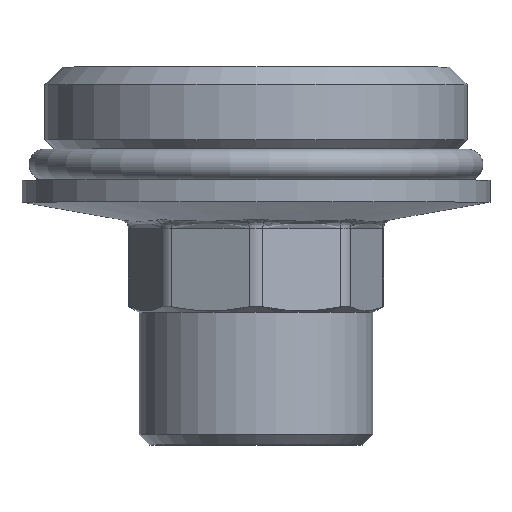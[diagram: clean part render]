
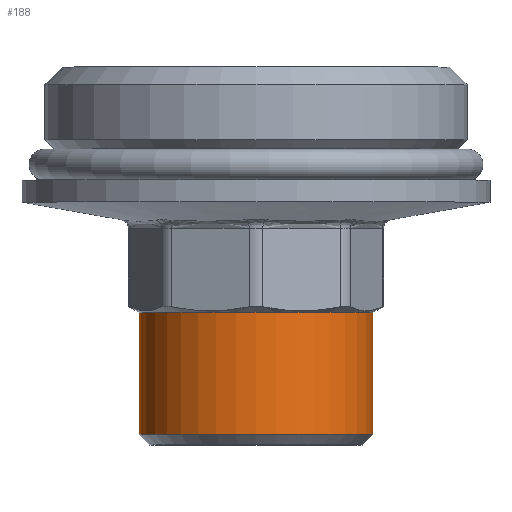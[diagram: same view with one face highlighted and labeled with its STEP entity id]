
A CAD part, top view. The second image highlights one B-rep face of the part: STEP entity #188.
In plain terms, the highlighted cylindrical face has radius 13.22 mm (diameter 26.441 mm), a full revolution.
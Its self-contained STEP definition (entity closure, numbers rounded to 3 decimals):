
#188=ADVANCED_FACE('',(#364,#366),#368,.T.);
#364=FACE_OUTER_BOUND('',#365,.T.);
#365=EDGE_LOOP('',(#1580));
#366=FACE_OUTER_BOUND('',#367,.T.);
#367=EDGE_LOOP('',(#1581));
#368=CYLINDRICAL_SURFACE('',#369,13.221);
#369=AXIS2_PLACEMENT_3D('',#370,#371,#372);
#370=CARTESIAN_POINT('',(0.,-12.5,0.));
#371=DIRECTION('',(0.,-1.,0.));
#372=DIRECTION('',(1.,0.,0.));
#1580=ORIENTED_EDGE('',*,*,#1778,.T.);
#1581=ORIENTED_EDGE('',*,*,#1775,.F.);
#1775=EDGE_CURVE('',#1887,#1887,#1888,.T.);
#1778=EDGE_CURVE('',#1893,#1893,#1894,.T.);
#1887=VERTEX_POINT('',#2089);
#1888=CIRCLE('',#2090,13.221);
#1893=VERTEX_POINT('',#2104);
#1894=CIRCLE('',#2105,13.221);
#2089=CARTESIAN_POINT('',(13.221,-26.3,0.));
#2090=AXIS2_PLACEMENT_3D('',#2091,#2092,#2093);
#2091=CARTESIAN_POINT('',(0.,-26.3,0.));
#2092=DIRECTION('',(0.,-1.,0.));
#2093=DIRECTION('',(1.,0.,0.));
#2104=CARTESIAN_POINT('',(13.221,-12.5,0.));
#2105=AXIS2_PLACEMENT_3D('',#2106,#2107,#2108);
#2106=CARTESIAN_POINT('',(0.,-12.5,0.));
#2107=DIRECTION('',(0.,-1.,0.));
#2108=DIRECTION('',(1.,0.,0.));
